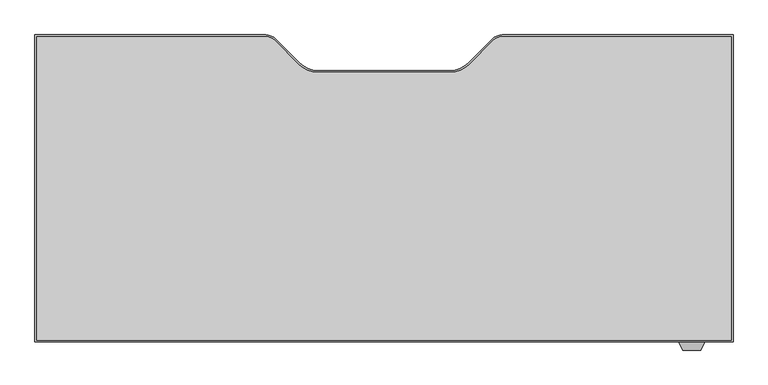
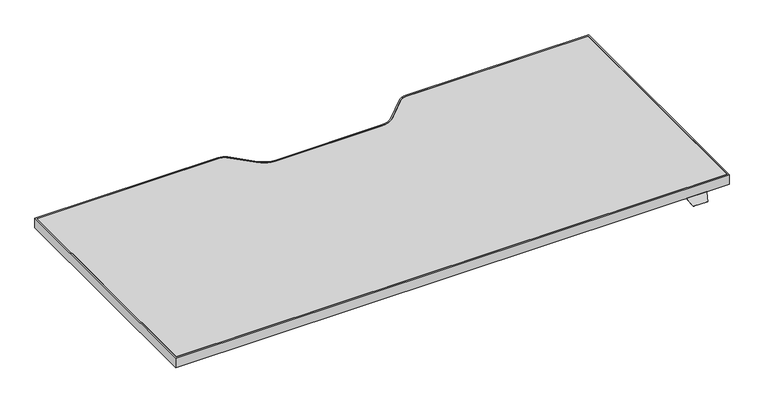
"""IFC4 building model written with IfcOpenShell, lengths in millimetres: furniture geometry, Steelcase Turnstone - Bivi - Height Adjustable Desk - T Base : 24D x 54.5W."""

from ifc_helpers import new_model, si_unit, point, frame, frame_2d, origin, place, context, project, spatial, polyline, circle_curve, trimmed, segment, composite_curve, outline, extrude, faceted_brep, source, transform, mapped, element, save


def furniture_60875b52(model_context):
    return source(origin(), model_context, "Body", "SolidModel", [
        faceted_brep([(246.1677913, -402.3301693, 760.9984131), (246.1677913, -399.8074599, 760.9984131), (246.1677913, -399.8074599, 762.4), (246.1677913, -402.3490853, 762.4), (246.1677913, -403.6594921, 761.3004382), (246.1677913, -403.6594921, 759.8829789), (196.5948135, -402.3490853, 762.4), (196.5948135, -399.8074599, 762.4), (196.5948135, -399.8074599, 760.9984131), (196.5948135, -402.3301693, 760.9984131), (196.5948135, -403.6594921, 759.8829789), (196.5948135, -403.6594921, 761.3004382), (239.1858363, -418.6323429, 748.7367246), (203.5767685, -418.6323429, 748.7367246), (203.2173686, -417.8616074, 747.9659891), (239.5452362, -417.8616074, 747.9659891)], [[[0, 1, 2, 3, 4, 5]], [[6, 7, 8, 9, 10, 11]], [[12, 13, 14, 15]], [[9, 0, 5, 15, 14, 10]], [[1, 0, 9, 8]], [[2, 1, 8, 7]], [[3, 2, 7, 6]], [[3, 6, 11, 13, 12, 4]], [[5, 4, 12, 15]], [[11, 10, 14, 13]]]),
        extrude(outline(composite_curve([segment(polyline([(-1081.3785908, 207.2509147), (-623.9070191, 207.2509147)]), True, "CONTINUOUS"), segment(trimmed(circle_curve(frame_2d((-623.9070191, 178.5489147)), 28.702), [point((-623.9070191, 207.2509147))], [point((-603.6116402, 198.8442935))], False, "CARTESIAN"), True, "CONTINUOUS"), segment(polyline([(-603.6116402, 198.8442935), (-556.0972358, 151.3298891)]), True, "CONTINUOUS"), segment(trimmed(circle_curve(frame_2d((-520.1762113, 187.2509136)), 50.8), [point((-556.0972358, 151.3298891))], [point((-520.1762113, 136.4509136))], True, "CARTESIAN"), True, "CONTINUOUS"), segment(polyline([(-520.1762113, 136.4509136), (-258.2809703, 136.4509136)]), True, "CONTINUOUS"), segment(trimmed(circle_curve(frame_2d((-258.2809703, 187.2509136)), 50.8), [point((-258.2809703, 136.4509136))], [point((-222.3599458, 151.3298891))], True, "CARTESIAN"), True, "CONTINUOUS"), segment(polyline([(-222.3599458, 151.3298891), (-174.8455414, 198.8442935)]), True, "CONTINUOUS"), segment(trimmed(circle_curve(frame_2d((-154.5501625, 178.5489147)), 28.702), [point((-174.8455414, 198.8442935))], [point((-154.5501625, 207.2509147))], False, "CARTESIAN"), True, "CONTINUOUS"), segment(polyline([(-154.5501625, 207.2509147), (302.9214092, 207.2509147), (302.9214092, -402.3490853), (-1081.3785908, -402.3490853), (-1081.3785908, 207.2509147)]), True, "CONTINUOUS")], self_intersect=False), holes=[composite_curve([segment(polyline([(-1077.9987543, 203.9489147), (-1077.9987543, -399.0470853), (299.6194092, -399.0470853), (299.6194092, 203.9489147), (-154.5501625, 203.9489147)]), True, "CONTINUOUS"), segment(trimmed(circle_curve(frame_2d((-154.5501625, 178.5489147)), 25.4), [point((-154.5501625, 203.9489147))], [point((-172.5106748, 196.5094269))], True, "CARTESIAN"), True, "CONTINUOUS"), segment(polyline([(-172.5106748, 196.5094269), (-220.527602, 148.4924998)]), True, "CONTINUOUS"), segment(trimmed(circle_curve(frame_2d((-256.4486265, 184.4135242)), 50.8), [point((-220.527602, 148.4924998))], [point((-256.4486265, 133.6135242))], False, "CARTESIAN"), True, "CONTINUOUS"), segment(polyline([(-256.4486265, 133.6135242), (-389.2285908, 133.6135242), (-522.0085552, 133.6135242)]), True, "CONTINUOUS"), segment(trimmed(circle_curve(frame_2d((-522.0085552, 184.4135242)), 50.8), [point((-522.0085552, 133.6135242))], [point((-557.9295796, 148.4924998))], False, "CARTESIAN"), True, "CONTINUOUS"), segment(polyline([(-557.9295796, 148.4924998), (-605.9465068, 196.5094269)]), True, "CONTINUOUS"), segment(trimmed(circle_curve(frame_2d((-623.9070191, 178.5489147)), 25.4), [point((-605.9465068, 196.5094269))], [point((-623.9070191, 203.9489147))], True, "CARTESIAN"), True, "CONTINUOUS"), segment(polyline([(-623.9070191, 203.9489147), (-1077.9987543, 203.9489147)]), True, "CONTINUOUS")], self_intersect=False)]), frame((0.0, 0.0, 762.4), z_axis=(0.0, 0.0, 1.0), x_axis=(1.0, 0.0, 0.0)), (0.0, 0.0, 1.0), 25.0),
        extrude(outline(composite_curve([segment(polyline([(-1077.9987543, 203.9489147), (-623.9070191, 203.9489147)]), True, "CONTINUOUS"), segment(trimmed(circle_curve(frame_2d((-623.9070191, 178.5489147)), 25.4), [point((-623.9070191, 203.9489147))], [point((-605.9465068, 196.5094269))], False, "CARTESIAN"), True, "CONTINUOUS"), segment(polyline([(-605.9465068, 196.5094269), (-557.9295796, 148.4924998)]), True, "CONTINUOUS"), segment(trimmed(circle_curve(frame_2d((-522.0085552, 184.4135242)), 50.8), [point((-557.9295796, 148.4924998))], [point((-522.0085552, 133.6135242))], True, "CARTESIAN"), True, "CONTINUOUS"), segment(polyline([(-522.0085552, 133.6135242), (-389.2285908, 133.6135242), (-256.4486265, 133.6135242)]), True, "CONTINUOUS"), segment(trimmed(circle_curve(frame_2d((-256.4486265, 184.4135242)), 50.8), [point((-256.4486265, 133.6135242))], [point((-220.527602, 148.4924998))], True, "CARTESIAN"), True, "CONTINUOUS"), segment(polyline([(-220.527602, 148.4924998), (-172.5106748, 196.5094269)]), True, "CONTINUOUS"), segment(trimmed(circle_curve(frame_2d((-154.5501625, 178.5489147)), 25.4), [point((-172.5106748, 196.5094269))], [point((-154.5501625, 203.9489147))], False, "CARTESIAN"), True, "CONTINUOUS"), segment(polyline([(-154.5501625, 203.9489147), (299.6194092, 203.9489147), (299.6194092, -399.0470853), (-1077.9987543, -399.0470853), (-1077.9987543, 203.9489147)]), True, "CONTINUOUS")], self_intersect=False)), frame((0.0, 0.0, 762.4), z_axis=(0.0, 0.0, 1.0), x_axis=(1.0, 0.0, 0.0)), (0.0, 0.0, 1.0), 25.0),
    ])


if __name__ == "__main__":
    model = new_model("IFC4")
    model_context = context("Model", 3, world=origin())
    ifc_project = project(units=[si_unit("LENGTHUNIT", "METRE", prefix="MILLI")], contexts=[model_context])
    site = spatial("IfcSite", under=ifc_project)
    building = spatial("IfcBuilding", under=site)
    placement = place(None, origin())
    furniture_shape = furniture_60875b52(model_context)
    element("IfcFurniture", 1, ObjectType="Steelcase Turnstone - Bivi - Height Adjustable Desk - T Base : 24D x 54.5W", at=placement, inside=building, context=model_context, shape_type="MappedRepresentation", body=[
        mapped(furniture_shape, transform((0.0, 0.0, 0.0), x_axis=(1.0, 0.0, 0.0), y_axis=(0.0, 1.0, 0.0), z_axis=(0.0, 0.0, 1.0))),
    ])
    save(model, "model.ifc")
